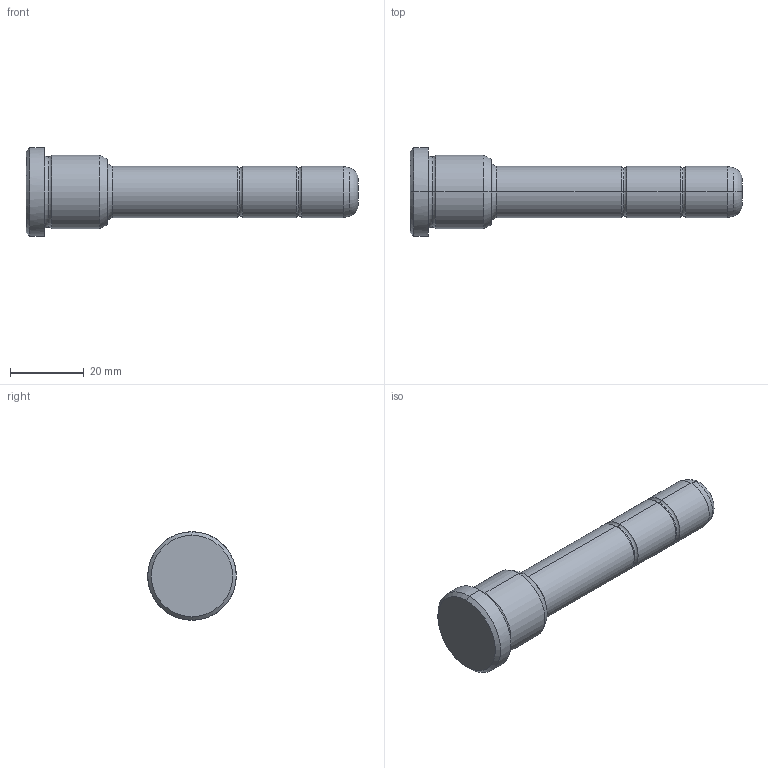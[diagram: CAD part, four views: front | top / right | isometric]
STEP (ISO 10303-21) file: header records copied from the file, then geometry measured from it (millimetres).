
FILE_DESCRIPTION(('CATIA V5 STEP Exchange'),'2;1');
FILE_NAME('C:\Users\Utente\Desktop\IO LAVORO\3D X SITO CF\X SITO\PLASTICA\351\351-14X22X90.stp','2021-08-18T09:58:15+00:00',('none'),('none'),'CATIA Version 5 Release 20 GA (IN-10)','CATIA V5 STEP AP203','none');
FILE_SCHEMA(('CONFIG_CONTROL_DESIGN'));
Length unit declared in the file: millimetre
Products named in the file (1): 351-14X22X90
Bounding box: 90 x 24 x 24 mm (x, y, z)
Volume: 17769.8 mm3; surface area: 5177.6 mm2
Topology: 1 solids, 1 shells, 36 faces, 102 edges, 70 vertices
Faces by surface type: torus 16, cylinder 10, cone 6, plane 4
Entity records: 1292 total; most frequent: CARTESIAN_POINT 321, ORIENTED_EDGE 204, DIRECTION 166, AXIS2_PLACEMENT_3D 115, EDGE_CURVE 102, CIRCLE 78, VERTEX_POINT 70, EDGE_LOOP 38
